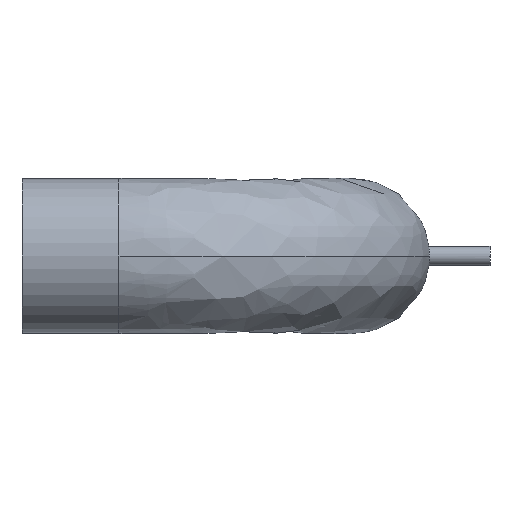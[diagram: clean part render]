
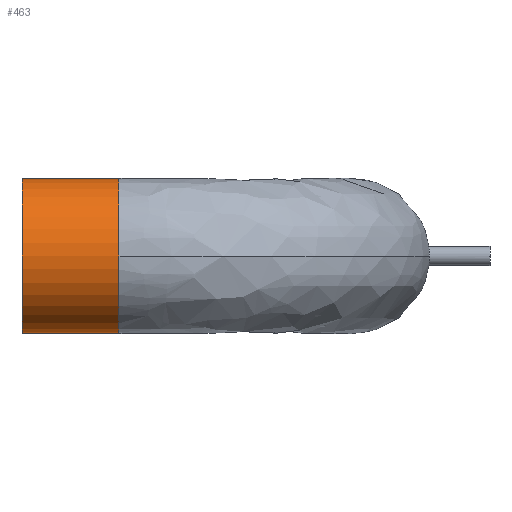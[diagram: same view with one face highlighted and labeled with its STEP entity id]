
A CAD part, left-side view. The second image highlights one B-rep face of the part: STEP entity #463.
In plain terms, the highlighted cylindrical face has radius 50.8 mm (diameter 101.6 mm), a partial arc.
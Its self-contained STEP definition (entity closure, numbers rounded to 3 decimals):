
#20 = DIRECTION ( 'NONE',  ( 0., -1., 0. ) ) ;
#27 = CIRCLE ( 'NONE', #798, 50.8 ) ;
#68 = CARTESIAN_POINT ( 'NONE',  ( -152.4, 215.9, 0. ) ) ;
#85 = CARTESIAN_POINT ( 'NONE',  ( -152.4, 152.4, 0. ) ) ;
#114 = CARTESIAN_POINT ( 'NONE',  ( -152.4, 152.4, -50.8 ) ) ;
#142 = AXIS2_PLACEMENT_3D ( 'NONE', #68, #20, #394 ) ;
#150 = DIRECTION ( 'NONE',  ( 0., 1., 0. ) ) ;
#153 = CARTESIAN_POINT ( 'NONE',  ( -152.4, 152.4, -50.8 ) ) ;
#181 = VECTOR ( 'NONE', #487, 1000. ) ;
#260 = CARTESIAN_POINT ( 'NONE',  ( -152.4, 152.4, 0. ) ) ;
#263 = VERTEX_POINT ( 'NONE', #693 ) ;
#268 = DIRECTION ( 'NONE',  ( 0., -1., 0. ) ) ;
#269 = ORIENTED_EDGE ( 'NONE', *, *, #835, .T. ) ;
#270 = DIRECTION ( 'NONE',  ( -1., 0., 0. ) ) ;
#271 = CIRCLE ( 'NONE', #142, 50.8 ) ;
#276 = CARTESIAN_POINT ( 'NONE',  ( -152.4, 152.4, 50.8 ) ) ;
#278 = EDGE_CURVE ( 'NONE', #731, #263, #27, .T. ) ;
#284 = ORIENTED_EDGE ( 'NONE', *, *, #573, .T. ) ;
#288 = LINE ( 'NONE', #448, #181 ) ;
#304 = AXIS2_PLACEMENT_3D ( 'NONE', #260, #268, #270 ) ;
#307 = LINE ( 'NONE', #114, #554 ) ;
#394 = DIRECTION ( 'NONE',  ( 0., 0., 1. ) ) ;
#428 = ORIENTED_EDGE ( 'NONE', *, *, #806, .F. ) ;
#448 = CARTESIAN_POINT ( 'NONE',  ( -152.4, 152.4, 50.8 ) ) ;
#453 = FACE_OUTER_BOUND ( 'NONE', #714, .T. ) ;
#463 = ADVANCED_FACE ( 'NONE', ( #453 ), #666, .T. ) ;
#473 = CARTESIAN_POINT ( 'NONE',  ( -152.4, 215.9, 50.8 ) ) ;
#487 = DIRECTION ( 'NONE',  ( 0., 1., 0. ) ) ;
#554 = VECTOR ( 'NONE', #581, 1000. ) ;
#573 = EDGE_CURVE ( 'NONE', #589, #876, #271, .T. ) ;
#581 = DIRECTION ( 'NONE',  ( 0., 1., 0. ) ) ;
#589 = VERTEX_POINT ( 'NONE', #473 ) ;
#590 = VERTEX_POINT ( 'NONE', #153 ) ;
#607 = DIRECTION ( 'NONE',  ( 0., 0., 1. ) ) ;
#615 = ORIENTED_EDGE ( 'NONE', *, *, #682, .F. ) ;
#656 = DIRECTION ( 'NONE',  ( -1., 0., 0. ) ) ;
#663 = CARTESIAN_POINT ( 'NONE',  ( -152.4, 152.4, 0. ) ) ;
#666 = CYLINDRICAL_SURFACE ( 'NONE', #736, 50.8 ) ;
#682 = EDGE_CURVE ( 'NONE', #263, #590, #787, .T. ) ;
#693 = CARTESIAN_POINT ( 'NONE',  ( -203.2, 152.4, 0. ) ) ;
#714 = EDGE_LOOP ( 'NONE', ( #428, #615, #803, #269, #284 ) ) ;
#731 = VERTEX_POINT ( 'NONE', #276 ) ;
#736 = AXIS2_PLACEMENT_3D ( 'NONE', #85, #150, #607 ) ;
#787 = CIRCLE ( 'NONE', #304, 50.8 ) ;
#788 = CARTESIAN_POINT ( 'NONE',  ( -152.4, 215.9, -50.8 ) ) ;
#798 = AXIS2_PLACEMENT_3D ( 'NONE', #663, #873, #656 ) ;
#803 = ORIENTED_EDGE ( 'NONE', *, *, #278, .F. ) ;
#806 = EDGE_CURVE ( 'NONE', #590, #876, #307, .T. ) ;
#835 = EDGE_CURVE ( 'NONE', #731, #589, #288, .T. ) ;
#873 = DIRECTION ( 'NONE',  ( 0., -1., 0. ) ) ;
#876 = VERTEX_POINT ( 'NONE', #788 ) ;
